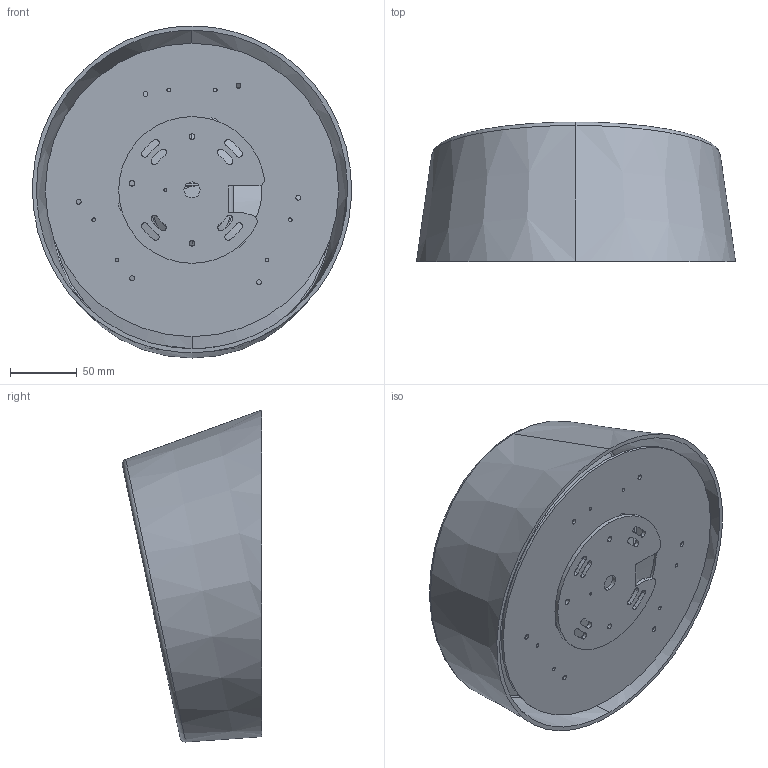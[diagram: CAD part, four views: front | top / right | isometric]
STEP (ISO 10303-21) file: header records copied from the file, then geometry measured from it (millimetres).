
FILE_DESCRIPTION (( 'STEP AP214' ), '1' );
FILE_NAME ('191_S_W-C_LD_3D.STEP', '2021-05-05T09:04:09', ( '' ), ( '' ), 'SwSTEP 2.0', 'SolidWorks 2021', '' );
FILE_SCHEMA (( 'AUTOMOTIVE_DESIGN' ));
Length unit declared in the file: millimetre
Products named in the file (1): 191_S_W-C_LD_3D
Bounding box: 239.28 x 104.62 x 248.96 mm (x, y, z)
Volume: 387804.6 mm3; surface area: 284508.4 mm2
Topology: 4 solids, 4 shells, 196 faces, 514 edges, 327 vertices
Faces by surface type: cylinder 123, plane 28, torus 22, cone 18, sphere 4, bspline 1
Entity records: 8548 total; most frequent: DIRECTION 1223, CARTESIAN_POINT 1103, ORIENTED_EDGE 1028, AXIS2_PLACEMENT_3D 519, EDGE_CURVE 514, VERTEX_POINT 327, CIRCLE 323, EDGE_LOOP 257
